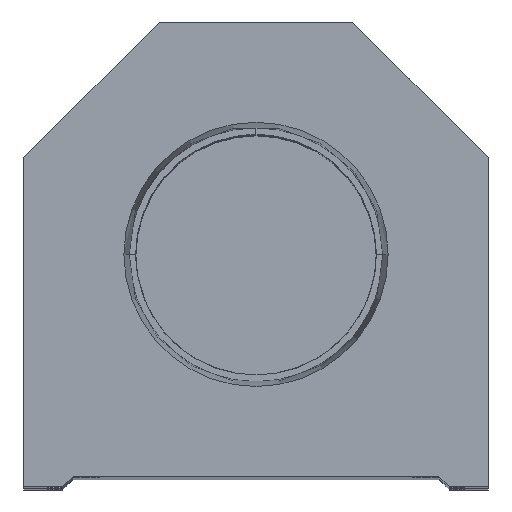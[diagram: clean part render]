
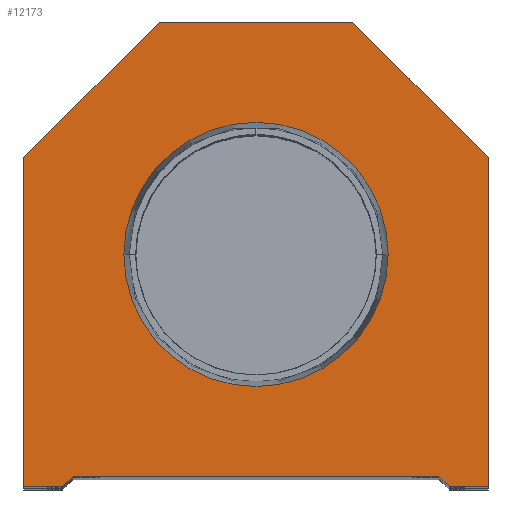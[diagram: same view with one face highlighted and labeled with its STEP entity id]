
A CAD part, top view. The second image highlights one B-rep face of the part: STEP entity #12173.
In plain terms, the highlighted planar face has unit normal (0, 0, 1).
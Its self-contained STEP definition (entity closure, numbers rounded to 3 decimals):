
#61 = LINE ( 'NONE', #6402, #16167 ) ;
#606 = EDGE_CURVE ( 'NONE', #3215, #3837, #10769, .T. ) ;
#1021 = CARTESIAN_POINT ( 'NONE',  ( -17.5, 0., 0. ) ) ;
#1131 = DIRECTION ( 'NONE',  ( 1., 0., 0. ) ) ;
#1249 = EDGE_CURVE ( 'NONE', #5600, #3215, #7512, .T. ) ;
#1484 = CIRCLE ( 'NONE', #15648, 12.647 ) ;
#1532 = CARTESIAN_POINT ( 'NONE',  ( -18.5, 0., 0. ) ) ;
#1665 = CARTESIAN_POINT ( 'NONE',  ( -17.5, 1., 0. ) ) ;
#1752 = CARTESIAN_POINT ( 'NONE',  ( -9.25, 9.25, 0. ) ) ;
#1799 = CARTESIAN_POINT ( 'NONE',  ( 0., 22.25, 0. ) ) ;
#2020 = DIRECTION ( 'NONE',  ( 0., 0., 1. ) ) ;
#2221 = CARTESIAN_POINT ( 'NONE',  ( 17.5, 0., 0. ) ) ;
#2637 = CARTESIAN_POINT ( 'NONE',  ( 22.25, 31.5, 0. ) ) ;
#3184 = DIRECTION ( 'NONE',  ( 0., 0., 1. ) ) ;
#3195 = EDGE_LOOP ( 'NONE', ( #18851, #10987 ) ) ;
#3215 = VERTEX_POINT ( 'NONE', #8380 ) ;
#3487 = EDGE_CURVE ( 'NONE', #7023, #16446, #20099, .T. ) ;
#3548 = DIRECTION ( 'NONE',  ( 0.707, -0.707, 0. ) ) ;
#3837 = VERTEX_POINT ( 'NONE', #16192 ) ;
#3884 = EDGE_CURVE ( 'NONE', #11118, #9285, #6197, .T. ) ;
#3890 = DIRECTION ( 'NONE',  ( 1., 0., 0. ) ) ;
#4333 = CARTESIAN_POINT ( 'NONE',  ( 22.25, 0., 0. ) ) ;
#4488 = DIRECTION ( 'NONE',  ( 1., 0., 0. ) ) ;
#4601 = EDGE_CURVE ( 'NONE', #7698, #17690, #17823, .T. ) ;
#5209 = EDGE_CURVE ( 'NONE', #16446, #13783, #15945, .T. ) ;
#5277 = FACE_OUTER_BOUND ( 'NONE', #8405, .T. ) ;
#5294 = EDGE_CURVE ( 'NONE', #14855, #7698, #12463, .T. ) ;
#5581 = DIRECTION ( 'NONE',  ( 0., -1., 0. ) ) ;
#5598 = DIRECTION ( 'NONE',  ( 0., 0., 1. ) ) ;
#5600 = VERTEX_POINT ( 'NONE', #6311 ) ;
#5744 = VECTOR ( 'NONE', #7537, 1000. ) ;
#6197 = CIRCLE ( 'NONE', #20059, 12.647 ) ;
#6311 = CARTESIAN_POINT ( 'NONE',  ( 22.25, 31.5, 0. ) ) ;
#6402 = CARTESIAN_POINT ( 'NONE',  ( -22.25, 31.5, 0. ) ) ;
#6448 = CARTESIAN_POINT ( 'NONE',  ( -22.25, 0., 0. ) ) ;
#6709 = LINE ( 'NONE', #1752, #8436 ) ;
#7023 = VERTEX_POINT ( 'NONE', #20023 ) ;
#7299 = EDGE_CURVE ( 'NONE', #9285, #11118, #1484, .T. ) ;
#7475 = CARTESIAN_POINT ( 'NONE',  ( 18.5, 0., 0. ) ) ;
#7512 = LINE ( 'NONE', #2637, #15886 ) ;
#7537 = DIRECTION ( 'NONE',  ( 0., 1., 0. ) ) ;
#7656 = ORIENTED_EDGE ( 'NONE', *, *, #606, .T. ) ;
#7698 = VERTEX_POINT ( 'NONE', #12460 ) ;
#8308 = ORIENTED_EDGE ( 'NONE', *, *, #10079, .T. ) ;
#8380 = CARTESIAN_POINT ( 'NONE',  ( 9.25, 44.5, 0. ) ) ;
#8405 = EDGE_LOOP ( 'NONE', ( #8697, #8308, #12410, #17790, #13380, #9360, #12592, #7656, #17838, #18425 ) ) ;
#8434 = VECTOR ( 'NONE', #3890, 1000. ) ;
#8436 = VECTOR ( 'NONE', #12900, 1000. ) ;
#8457 = VECTOR ( 'NONE', #15593, 1000. ) ;
#8492 = DIRECTION ( 'NONE',  ( 1., 0., 0. ) ) ;
#8697 = ORIENTED_EDGE ( 'NONE', *, *, #5209, .T. ) ;
#9024 = PLANE ( 'NONE',  #20607 ) ;
#9285 = VERTEX_POINT ( 'NONE', #13207 ) ;
#9300 = CARTESIAN_POINT ( 'NONE',  ( -17.5, 1., 0. ) ) ;
#9360 = ORIENTED_EDGE ( 'NONE', *, *, #10537, .T. ) ;
#9670 = DIRECTION ( 'NONE',  ( 1., 0., 0. ) ) ;
#9700 = CARTESIAN_POINT ( 'NONE',  ( -12.647, 22.25, 0. ) ) ;
#10024 = EDGE_CURVE ( 'NONE', #3837, #7023, #61, .T. ) ;
#10079 = EDGE_CURVE ( 'NONE', #13783, #14855, #6709, .T. ) ;
#10537 = EDGE_CURVE ( 'NONE', #13201, #5600, #18950, .T. ) ;
#10769 = LINE ( 'NONE', #14034, #8457 ) ;
#10987 = ORIENTED_EDGE ( 'NONE', *, *, #3884, .F. ) ;
#11118 = VERTEX_POINT ( 'NONE', #9700 ) ;
#11136 = DIRECTION ( 'NONE',  ( -0.707, 0.707, 0. ) ) ;
#12173 = ADVANCED_FACE ( 'NONE', ( #15124, #5277 ), #9024, .T. ) ;
#12256 = EDGE_CURVE ( 'NONE', #17690, #13201, #18279, .T. ) ;
#12410 = ORIENTED_EDGE ( 'NONE', *, *, #5294, .T. ) ;
#12460 = CARTESIAN_POINT ( 'NONE',  ( 17.5, 1., 0. ) ) ;
#12463 = LINE ( 'NONE', #9300, #19722 ) ;
#12592 = ORIENTED_EDGE ( 'NONE', *, *, #1249, .T. ) ;
#12900 = DIRECTION ( 'NONE',  ( 0.707, 0.707, 0. ) ) ;
#13031 = CARTESIAN_POINT ( 'NONE',  ( 9.25, 9.25, 0. ) ) ;
#13201 = VERTEX_POINT ( 'NONE', #19989 ) ;
#13207 = CARTESIAN_POINT ( 'NONE',  ( 12.647, 22.25, 0. ) ) ;
#13380 = ORIENTED_EDGE ( 'NONE', *, *, #12256, .T. ) ;
#13661 = CARTESIAN_POINT ( 'NONE',  ( 0., 0., 0. ) ) ;
#13783 = VERTEX_POINT ( 'NONE', #1532 ) ;
#14034 = CARTESIAN_POINT ( 'NONE',  ( 9.25, 44.5, 0. ) ) ;
#14855 = VERTEX_POINT ( 'NONE', #1665 ) ;
#15035 = VECTOR ( 'NONE', #1131, 1000. ) ;
#15124 = FACE_BOUND ( 'NONE', #3195, .T. ) ;
#15337 = VECTOR ( 'NONE', #3548, 1000. ) ;
#15516 = VECTOR ( 'NONE', #5581, 1000. ) ;
#15593 = DIRECTION ( 'NONE',  ( -1., 0., 0. ) ) ;
#15648 = AXIS2_PLACEMENT_3D ( 'NONE', #1799, #3184, #9670 ) ;
#15886 = VECTOR ( 'NONE', #11136, 1000. ) ;
#15945 = LINE ( 'NONE', #1021, #15035 ) ;
#16167 = VECTOR ( 'NONE', #16228, 1000. ) ;
#16192 = CARTESIAN_POINT ( 'NONE',  ( -9.25, 44.5, 0. ) ) ;
#16228 = DIRECTION ( 'NONE',  ( -0.707, -0.707, 0. ) ) ;
#16446 = VERTEX_POINT ( 'NONE', #6448 ) ;
#16483 = CARTESIAN_POINT ( 'NONE',  ( 0., 22.25, 0. ) ) ;
#17690 = VERTEX_POINT ( 'NONE', #7475 ) ;
#17790 = ORIENTED_EDGE ( 'NONE', *, *, #4601, .T. ) ;
#17823 = LINE ( 'NONE', #13031, #15337 ) ;
#17838 = ORIENTED_EDGE ( 'NONE', *, *, #10024, .T. ) ;
#18279 = LINE ( 'NONE', #2221, #8434 ) ;
#18425 = ORIENTED_EDGE ( 'NONE', *, *, #3487, .T. ) ;
#18598 = CARTESIAN_POINT ( 'NONE',  ( -22.25, 0., 0. ) ) ;
#18851 = ORIENTED_EDGE ( 'NONE', *, *, #7299, .F. ) ;
#18950 = LINE ( 'NONE', #4333, #5744 ) ;
#19722 = VECTOR ( 'NONE', #4488, 1000. ) ;
#19989 = CARTESIAN_POINT ( 'NONE',  ( 22.25, 0., 0. ) ) ;
#20023 = CARTESIAN_POINT ( 'NONE',  ( -22.25, 31.5, 0. ) ) ;
#20059 = AXIS2_PLACEMENT_3D ( 'NONE', #16483, #2020, #8492 ) ;
#20099 = LINE ( 'NONE', #18598, #15516 ) ;
#20117 = DIRECTION ( 'NONE',  ( 1., 0., 0. ) ) ;
#20607 = AXIS2_PLACEMENT_3D ( 'NONE', #13661, #5598, #20117 ) ;
